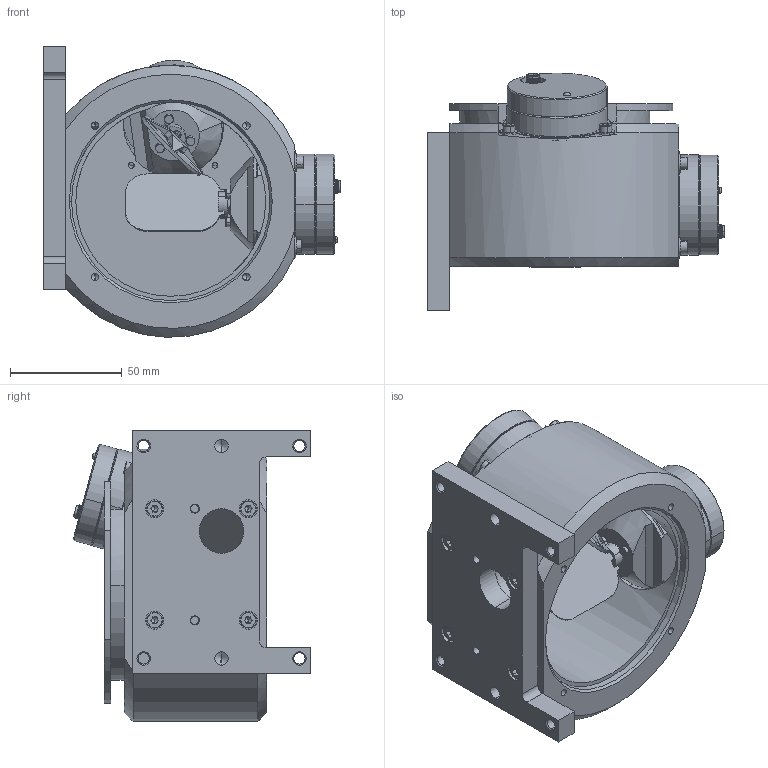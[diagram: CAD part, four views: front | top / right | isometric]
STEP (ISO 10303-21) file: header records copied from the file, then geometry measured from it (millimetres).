
FILE_DESCRIPTION (( 'STEP AP214' ), '1' );
FILE_NAME ('MSA_A20_SiC.STEP', '2019-06-06T11:47:11', ( '' ), ( '' ), 'SwSTEP 2.0', 'SolidWorks 2011', '' );
FILE_SCHEMA (( 'AUTOMOTIVE_DESIGN' ));
Length unit declared in the file: millimetre
Products named in the file (14): parallel pin hardened_iso_Parallel Pin ISO 8734 - 4 x 10 - A - St; RTAX_A20_SiC; A20_SiC_MirrorX; RTAY_A20_SiC; socket head cap screw_iso_ISO 4762 M2 x 5 --- 5N; A20_SiC_MirrorY; Scanner_Draw10_4; Scanner_Solid; socket head cap screw_iso_ISO 4762 M3 x 8 --- 8N; plain washer 10673 type snl_iso_ISO 10673-3.2-N; socket head cap screw_iso_ISO 4762 M4 x 12 --- 12C; rhothor_montage_plaat_Draw01_3; Draw07_1; MSA_A20_SiC
Assembly tree (36 placements, depth 3):
  MSA_A20_SiC
    RTAX_A20_SiC
      socket head cap screw_iso_ISO 4762 M2 x 5 --- 5N  x2
      A20_SiC_MirrorX
      Scanner_Solid
      Scanner_Draw10_4
    RTAY_A20_SiC
      A20_SiC_MirrorY
      socket head cap screw_iso_ISO 4762 M2 x 5 --- 5N  x2
      Scanner_Solid
      Scanner_Draw10_4
    plain washer 10673 type snl_iso_ISO 10673-3.2-N  x8
    socket head cap screw_iso_ISO 4762 M3 x 8 --- 8N  x8
    socket head cap screw_iso_ISO 4762 M4 x 12 --- 12C  x4
    rhothor_montage_plaat_Draw01_3
    Draw07_1
    parallel pin hardened_iso_Parallel Pin ISO 8734 - 4 x 10 - A - St  x2
Bounding box: 133.05 x 106.52 x 130.29 mm (x, y, z)
Volume: 540528 mm3; surface area: 116954.1 mm2
Topology: 34 solids, 34 shells, 1074 faces, 2485 edges, 1492 vertices
Faces by surface type: plane 427, cylinder 349, cone 203, torus 80, bspline 15
Entity records: 19765 total; most frequent: CARTESIAN_POINT 4410, DIRECTION 2780, ORIENTED_EDGE 2588, EDGE_CURVE 1294, AXIS2_PLACEMENT_3D 1093, VERTEX_POINT 815, EDGE_LOOP 631, LINE 594
